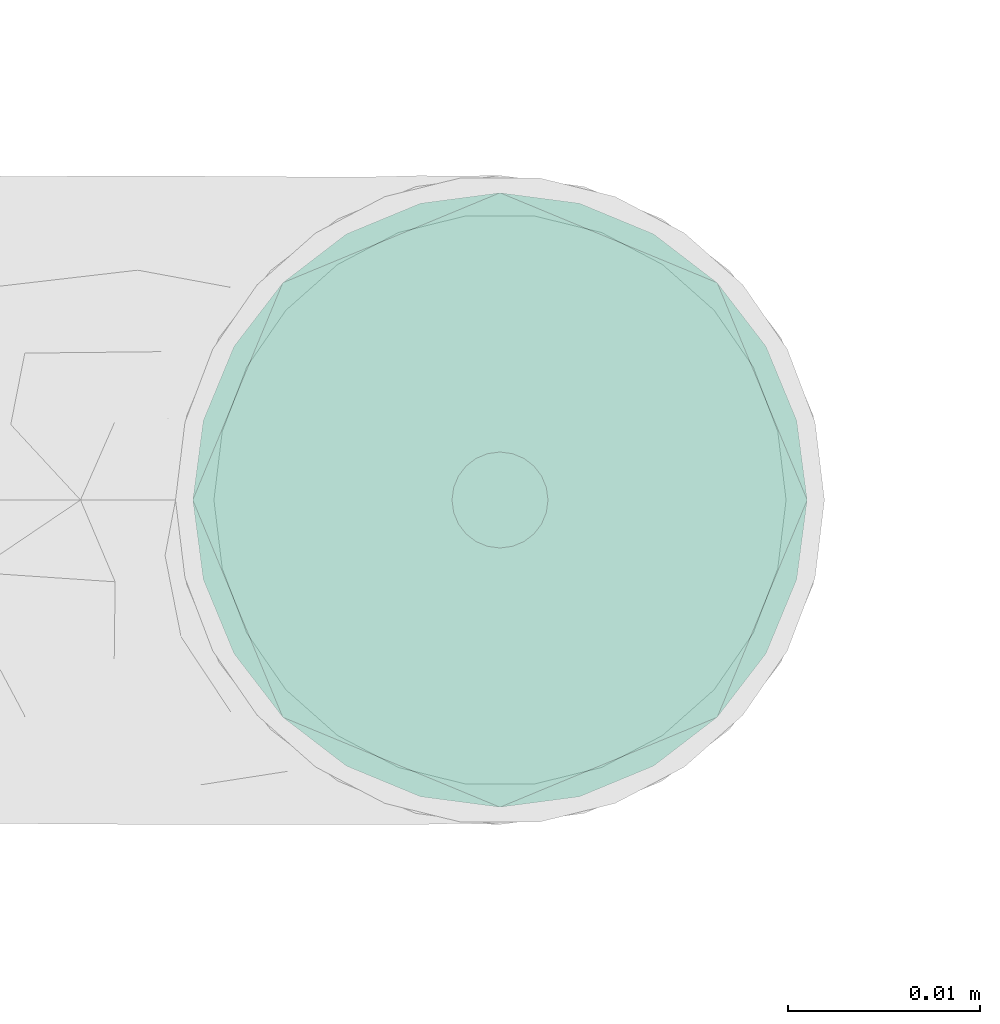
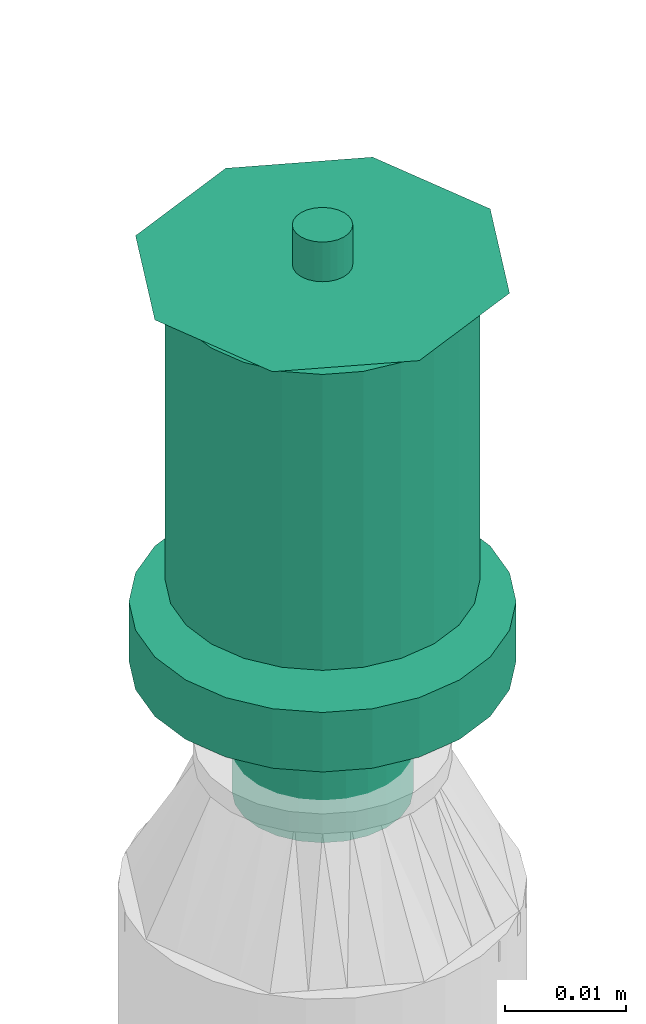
# One storey, part 122 of 157: 1 flow terminal.
"""IFC2X3 building model written with IfcOpenShell, lengths in millimetres."""

from ifc_helpers import new_model, entity, si_unit, converted_unit, derived_unit, direction, frame, origin_with_axes, place, context, subcontext, project, spatial, open_shell, surface_model, source, transform, mapped, type_object, element, save


model = new_model("IFC2X3")

# Units and contexts
model_context = context("Model", 3, precision=0.01, world=frame((0.0, 4.29681676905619e-09, 0.0)), true_north=direction((4.01073788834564e-13, 1.0)))
plan_context = context("Plan", 3, precision=0.01, world=frame((0.0, 4.29681676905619e-09, 0.0)), true_north=direction((4.01073788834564e-13, 1.0)))
body_context = subcontext(model_context, "Body", "Model", "MODEL_VIEW")
ifc_project = project(units=[converted_unit("PLANEANGLEUNIT", "DEGREE", entity("IfcPositiveLengthMeasure", 0.0174532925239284), si_unit("PLANEANGLEUNIT", "RADIAN"), dimensions=[0, 0, 0, 0, 0, 0, 0]), si_unit("AREAUNIT", "SQUARE_METRE"), si_unit("LENGTHUNIT", "METRE", prefix="MILLI"), si_unit("MASSUNIT", "GRAM", prefix="KILO"), si_unit("POWERUNIT", "WATT"), si_unit("PRESSUREUNIT", "PASCAL"), si_unit("FORCEUNIT", "NEWTON", prefix="KILO"), si_unit("ELECTRICCURRENTUNIT", "AMPERE"), si_unit("THERMODYNAMICTEMPERATUREUNIT", "DEGREE_CELSIUS"), si_unit("TIMEUNIT", "SECOND"), si_unit("VOLUMEUNIT", "CUBIC_METRE"), derived_unit("LINEARVELOCITYUNIT", [(si_unit("LENGTHUNIT", "METRE"), 1), (si_unit("TIMEUNIT", "SECOND"), -1)]), derived_unit("VOLUMETRICFLOWRATEUNIT", [(si_unit("VOLUMEUNIT", "CUBIC_METRE"), 1), (si_unit("TIMEUNIT", "SECOND"), -1)]), derived_unit("THERMALTRANSMITTANCEUNIT", [(si_unit("POWERUNIT", "WATT"), 1), (si_unit("THERMODYNAMICTEMPERATUREUNIT", "KELVIN"), -1), (si_unit("AREAUNIT", "SQUARE_METRE"), -1)])], contexts=[model_context, plan_context])

# Site, building, storey
site_placement = place(None, frame((0.0, -4.29681676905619e-09, 0.0), z_axis=(0.0, 0.0, 1.0), x_axis=(1.0, 0.0, 0.0)))
site = spatial("IfcSite", under=ifc_project, at=site_placement, CompositionType="ELEMENT")
building_placement = place(site_placement, frame((0.0, 4.29681676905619e-09, 0.0), z_axis=(0.0, 0.0, 1.0), x_axis=(1.0, 0.0, 0.0)))
building = spatial("IfcBuilding", under=site, at=building_placement, Name="mc-building", CompositionType="ELEMENT")
storey_placement = place(building_placement, frame((0.0, 0.0, 204000.0), z_axis=(0.0, 0.0, 1.0), x_axis=(1.0, 0.0, 0.0)))
storey = spatial("IfcBuildingStorey", under=building, at=storey_placement, Name="Nivå D", CompositionType="ELEMENT", Elevation=204000.0)

# Flow terminal
fire_suppression_terminal_type = type_object("IfcFireSuppressionTerminalType", Name="68DGR-STD-STÅENDE", PredefinedType="NOTDEFINED")
shared_shape = source(origin_with_axes(), body_context, "Body", "SurfaceModel", [
    surface_model("IfcShellBasedSurfaceModel", [(12.55704, 3.36465, 21.14766), (13.0, 0.0, 21.14766), (12.55704, -3.36465, 21.14766), (-12.55704, -3.36465, 21.14766), (-11.25833, -6.5, 21.14766), (-11.25833, -6.5, 51.0), (3.36465, -12.55704, 51.0), (3.36465, -12.55704, 21.14766), (6.5, -11.25833, 21.14766), (9.19239, -9.19239, 21.14766), (11.25833, -6.5, 21.14766), (9.19239, -9.19239, 51.0), (6.5, -11.25833, 51.0), (11.25833, -6.5, 51.0), (12.55704, -3.36465, 51.0), (13.0, 0.0, 51.0), (9.19239, 9.19239, 51.0), (11.25833, 6.5, 21.14766), (9.19239, 9.19239, 21.14766), (11.25833, 6.5, 51.0), (12.55704, 3.36465, 51.0), (6.5, 11.25833, 51.0), (6.5, 11.25833, 21.14766), (3.36465, 12.55704, 21.14766), (3.36465, 12.55704, 51.0), (-11.25833, 6.5, 51.0), (-11.25833, 6.5, 21.14766), (-12.55704, 3.36465, 21.14766), (0.0, -2.5, 51.0), (-2.5, 0.0, 51.0), (0.0, 2.5, 51.0), (2.5, 0.0, 51.0), (11.31371, 11.31371, 53.0), (-11.31371, 11.31371, 53.0), (-11.31371, -11.31371, 53.0), (11.31371, -11.31371, 53.0), (1.62635, 1.62635, 51.0), (2.16506, 1.25, 51.0), (1.99186, 1.15, 51.0), (-1.76777, 1.76777, 51.0), (-1.25, 2.16506, 51.0), (-1.62635, 1.62635, 51.0), (1.99186, -1.15, 51.0), (2.16506, -1.25, 51.0), (1.62635, -1.62635, 51.0), (-1.62635, -1.62635, 51.0), (-1.25, -2.16506, 51.0), (-1.76777, -1.76777, 51.0), (0.0, 7.3, 0.0), (1.94114, 7.24444, 0.0), (1.88938, 7.05126, 0.0), (5.16188, 5.16188, 0.0), (6.49519, 3.75, 0.0), (6.32199, 3.65, 0.0), (-5.3033, 5.3033, 0.0), (-3.75, 6.49519, 0.0), (-5.16188, 5.16188, 0.0), (6.32199, -3.65, 0.0), (6.49519, -3.75, 0.0), (5.16188, -5.16188, 0.0), (1.88938, -7.05126, 0.0), (1.94114, -7.24444, 0.0), (0.0, -7.3, 0.0), (-5.16188, -5.16188, 0.0), (-3.75, -6.49519, 0.0), (-5.3033, -5.3033, 0.0), (-3.36465, 12.55704, 51.0), (-6.5, 11.25833, 51.0), (0.0, 13.0, 51.0), (-9.19239, 9.19239, 51.0), (0.0, -13.0, 51.0), (-9.19239, -9.19239, 51.0), (-12.55704, -3.36465, 51.0), (-6.5, -11.25833, 51.0), (-3.36465, -12.55704, 51.0), (-7.5, 0.0, -0.1), (-7.24444, 1.94114, 0.1), (-7.24444, 1.94114, -0.1), (-6.49519, 3.75, 0.1), (-6.49519, 3.75, -0.1), (-3.75, 6.49519, -0.1), (-5.3033, 5.3033, -0.1), (-3.75, 6.49519, 0.1), (-5.3033, 5.3033, 0.1), (-1.94114, 7.24444, -0.1), (-1.94114, 7.24444, 0.1), (-7.5, 0.0, 0.1), (0.0, 7.5, 0.1), (0.0, 7.5, -0.1), (1.94114, 7.24444, 0.1), (1.94114, 7.24444, -0.1), (3.75, 6.49519, 0.1), (3.75, 6.49519, -0.1), (6.49519, 3.75, -0.1), (5.3033, 5.3033, -0.1), (6.49519, 3.75, 0.1), (5.3033, 5.3033, 0.1), (7.24444, 1.94114, -0.1), (7.24444, 1.94114, 0.1), (7.5, 0.0, 0.1), (7.5, 0.0, -0.1), (-7.24444, -1.94114, 0.1), (7.24444, -1.94114, 0.1), (5.3033, -5.3033, 0.1), (6.49519, -3.75, 0.1), (-6.49519, -3.75, 0.1), (0.0, -7.5, 0.1), (1.94114, -7.24444, 0.1), (3.75, -6.49519, 0.1), (-3.75, -6.49519, 0.1), (-1.94114, -7.24444, 0.1), (-5.3033, -5.3033, 0.1), (0.0, -7.5, -0.1), (-6.49519, -3.75, -0.1), (1.94114, -7.24444, -0.1), (3.75, -6.49519, -0.1), (5.3033, -5.3033, -0.1), (7.24444, -1.94114, -0.1), (6.49519, -3.75, -0.1), (-3.75, -6.49519, -0.1), (-5.3033, -5.3033, -0.1), (-1.94114, -7.24444, -0.1), (-7.24444, -1.94114, -0.1), (16.0, 0.0, 53.0), (0.0, -16.0, 53.0), (-16.0, 0.0, 53.0), (0.0, 16.0, 53.0), (0.64705, 2.41481, 57.0), (0.0, 2.5, 57.0), (1.25, 2.16506, 57.0), (-2.5, 0.0, 57.0), (1.76777, 1.76777, 57.0), (2.41481, 0.64705, 57.0), (2.16506, 1.25, 57.0), (-0.64705, 2.41481, 57.0), (-1.25, 2.16506, 57.0), (-1.76777, 1.76777, 57.0), (-2.16506, 1.25, 57.0), (-2.41481, 0.64705, 57.0), (2.5, 0.0, 57.0), (1.76777, -1.76777, 57.0), (2.16506, -1.25, 57.0), (2.41481, -0.64705, 57.0), (-2.41481, -0.64705, 57.0), (0.64705, -2.41481, 57.0), (1.25, -2.16506, 57.0), (0.0, -2.5, 57.0), (-1.76777, -1.76777, 57.0), (-2.16506, -1.25, 57.0), (-1.25, -2.16506, 57.0), (-0.64705, -2.41481, 57.0), (1.15, -1.99186, 51.0), (1.76777, -1.76777, 51.0), (1.25, -2.16506, 51.0), (0.59528, -2.22163, 51.0), (0.0, -2.3, 51.0), (0.64705, -2.41481, 51.0), (2.22163, -0.59528, 51.0), (2.3, 0.0, 51.0), (2.41481, -0.64705, 51.0), (-0.64705, -2.41481, 51.0), (-0.59528, -2.22163, 51.0), (-1.15, -1.99186, 51.0), (-2.16506, -1.25, 51.0), (-1.99186, -1.15, 51.0), (-2.22163, -0.59528, 51.0), (-2.3, 0.0, 51.0), (-2.41481, -0.64705, 51.0), (2.22163, 0.59528, 51.0), (2.41481, 0.64705, 51.0), (1.76777, 1.76777, 51.0), (1.15, 1.99186, 51.0), (1.25, 2.16506, 51.0), (0.59528, 2.22163, 51.0), (0.0, 2.3, 51.0), (0.64705, 2.41481, 51.0), (-1.99186, 1.15, 51.0), (-2.16506, 1.25, 51.0), (-2.41481, 0.64705, 51.0), (-2.22163, 0.59528, 51.0), (-0.64705, 2.41481, 51.0), (-0.59528, 2.22163, 51.0), (-1.15, 1.99186, 51.0), (-2.22163, 0.59528, 56.8), (-1.99186, 1.15, 56.8), (-1.15, 1.99186, 56.8), (-1.62635, 1.62635, 56.8), (-0.59528, 2.22163, 56.8), (-2.3, 0.0, 56.8), (0.0, 2.3, 56.8), (0.59528, 2.22163, 56.8), (1.15, 1.99186, 56.8), (1.99186, 1.15, 56.8), (1.62635, 1.62635, 56.8), (2.22163, 0.59528, 56.8), (2.3, 0.0, 56.8), (2.22163, -0.59528, 56.8), (1.99186, -1.15, 56.8), (1.62635, -1.62635, 56.8), (1.15, -1.99186, 56.8), (0.59528, -2.22163, 56.8), (0.0, -2.3, 56.8), (-1.99186, -1.15, 56.8), (-2.22163, -0.59528, 56.8), (-1.62635, -1.62635, 56.8), (-0.59528, -2.22163, 56.8), (-1.15, -1.99186, 56.8), (8.0, -13.85641, 13.0), (4.1411, -15.45481, 13.0), (0.0, -16.0, 13.0), (-4.1411, -15.45481, 13.0), (15.45481, -4.1411, 13.0), (13.85641, -8.0, 13.0), (11.31371, -11.31371, 13.0), (-16.0, 0.0, 13.0), (-8.0, -13.85641, 13.0), (-11.31371, -11.31371, 13.0), (-13.85641, -8.0, 13.0), (-15.45481, -4.1411, 13.0), (15.45481, 4.1411, 13.0), (4.1411, 15.45481, 13.0), (13.85641, 8.0, 13.0), (8.0, 13.85641, 13.0), (11.31371, 11.31371, 13.0), (-15.45481, 4.1411, 13.0), (-11.31371, 11.31371, 13.0), (-8.0, 13.85641, 13.0), (-13.85641, 8.0, 13.0), (-4.1411, 15.45481, 13.0), (0.0, 16.0, 13.0), (16.0, 0.0, 13.0), (7.05126, 1.88938, 12.8), (1.88938, 7.05126, 12.8), (3.65, 6.32199, 12.8), (6.32199, 3.65, 12.8), (5.16188, 5.16188, 12.8), (7.3, 0.0, 12.8), (0.0, 7.3, 12.8), (-3.65, 6.32199, 12.8), (-1.88938, 7.05126, 12.8), (-5.16188, 5.16188, 12.8), (-7.05126, 1.88938, 12.8), (-6.32199, 3.65, 12.8), (7.05126, -1.88938, 12.8), (0.0, -7.3, 12.8), (6.32199, -3.65, 12.8), (3.65, -6.32199, 12.8), (5.16188, -5.16188, 12.8), (1.88938, -7.05126, 12.8), (-7.3, 0.0, 12.8), (-6.32199, -3.65, 12.8), (-7.05126, -1.88938, 12.8), (-1.88938, -7.05126, 12.8), (-5.16188, -5.16188, 12.8), (-3.65, -6.32199, 12.8), (-7.05126, 1.88938, 0.0), (-7.3, 0.0, 0.0), (-6.32199, 3.65, 0.0), (-3.65, 6.32199, 0.0), (-1.88938, 7.05126, 0.0), (3.65, 6.32199, 0.0), (7.05126, 1.88938, 0.0), (7.3, 0.0, 0.0), (3.75, 6.49519, 13.0), (1.94114, 7.24444, 13.0), (7.5, 0.0, 13.0), (5.3033, 5.3033, 13.0), (7.24444, 1.94114, 13.0), (6.49519, 3.75, 13.0), (-5.3033, 5.3033, 13.0), (-7.24444, -1.94114, 13.0), (-1.94114, 7.24444, 13.0), (-3.75, 6.49519, 13.0), (0.0, 7.5, 13.0), (-6.49519, 3.75, 13.0), (-7.24444, 1.94114, 13.0), (7.24444, -1.94114, 13.0), (5.3033, -5.3033, 13.0), (6.49519, -3.75, 13.0), (-6.49519, -3.75, 13.0), (0.0, -7.5, 13.0), (1.94114, -7.24444, 13.0), (3.75, -6.49519, 13.0), (-7.5, 0.0, 13.0), (-3.75, -6.49519, 13.0), (-1.94114, -7.24444, 13.0), (-5.3033, -5.3033, 13.0), (3.65, -6.32199, 0.0), (5.3033, -5.3033, 0.0), (3.75, -6.49519, 0.0), (0.0, -7.5, 0.0), (7.05126, -1.88938, 0.0), (7.24444, -1.94114, 0.0), (7.5, 0.0, 0.0), (-1.94114, -7.24444, 0.0), (-1.88938, -7.05126, 0.0), (-3.65, -6.32199, 0.0), (-6.49519, -3.75, 0.0), (-6.32199, -3.65, 0.0), (-7.05126, -1.88938, 0.0), (-7.24444, -1.94114, 0.0), (-7.5, 0.0, 0.0), (7.24444, 1.94114, 0.0), (5.3033, 5.3033, 0.0), (3.75, 6.49519, 0.0), (0.0, 7.5, 0.0), (-6.49519, 3.75, 0.0), (-7.24444, 1.94114, 0.0), (-1.94114, 7.24444, 0.0), (-12.55704, 3.36465, 51.0), (-13.0, 0.0, 51.0), (0.0, -13.0, 21.14766), (-3.36465, -12.55704, 21.14766), (-6.5, -11.25833, 21.14766), (-9.19239, -9.19239, 21.14766), (-13.0, 0.0, 21.14766), (-9.19239, 9.19239, 21.14766), (-6.5, 11.25833, 21.14766), (-3.36465, 12.55704, 21.14766), (0.0, 13.0, 21.14766), (11.31371, 11.31371, 19.0), (8.0, 13.85641, 19.0), (4.1411, 15.45481, 19.0), (-8.0, 13.85641, 19.0), (16.0, 0.0, 19.0), (15.45481, 4.1411, 19.0), (13.85641, 8.0, 19.0), (-4.1411, 15.45481, 19.0), (0.0, 16.0, 19.0), (-11.31371, 11.31371, 19.0), (-13.85641, 8.0, 19.0), (-15.45481, 4.1411, 19.0), (15.45481, -4.1411, 19.0), (11.31371, -11.31371, 19.0), (13.85641, -8.0, 19.0), (-16.0, 0.0, 19.0), (0.0, -16.0, 19.0), (4.1411, -15.45481, 19.0), (8.0, -13.85641, 19.0), (-13.85641, -8.0, 19.0), (-11.31371, -11.31371, 19.0), (-15.45481, -4.1411, 19.0), (-8.0, -13.85641, 19.0), (-4.1411, -15.45481, 19.0)], [open_shell([[[0, 1, 2]], [[3, 4, 5]], [[6, 7, 8]], [[9, 10, 11]], [[9, 11, 12]], [[10, 13, 11]], [[14, 13, 2]], [[1, 15, 14]], [[16, 17, 18]], [[0, 19, 20]], [[20, 15, 1]], [[21, 16, 18]], [[22, 23, 24]], [[16, 19, 17]], [[25, 26, 27]], [[28, 29, 30]], [[30, 31, 28]], [[31, 30, 32]], [[33, 30, 29]], [[29, 28, 34]], [[35, 28, 31]], [[36, 37, 38]], [[39, 40, 41]], [[42, 43, 44]], [[45, 46, 47]], [[48, 49, 50]], [[51, 52, 53]], [[54, 55, 56]], [[57, 58, 59]], [[60, 61, 62]], [[63, 64, 65]], [[66, 67, 68]], [[67, 24, 68]], [[69, 25, 67]], [[15, 20, 14]], [[70, 6, 12]], [[5, 71, 72]], [[73, 74, 71]], [[72, 71, 74]], [[75, 76, 77]], [[77, 78, 79]], [[80, 81, 82]], [[83, 81, 79]], [[84, 80, 85]], [[76, 78, 77]], [[75, 86, 76]], [[80, 82, 85]], [[82, 81, 83]], [[79, 78, 83]], [[84, 85, 87]], [[87, 88, 84]], [[88, 89, 90]], [[90, 91, 92]], [[93, 94, 95]], [[96, 94, 92]], [[97, 93, 98]], [[91, 96, 92]], [[90, 89, 91]], [[97, 98, 99]], [[98, 93, 95]], [[94, 96, 95]], [[97, 99, 100]], [[87, 89, 88]], [[91, 89, 99]], [[96, 91, 98]], [[91, 99, 98]], [[95, 96, 98]], [[89, 83, 101]], [[85, 82, 87]], [[83, 87, 82]], [[78, 76, 83]], [[89, 87, 83]], [[76, 101, 83]], [[102, 99, 89]], [[103, 104, 102]], [[89, 105, 103]], [[103, 106, 107]], [[108, 103, 107]], [[106, 103, 105]], [[89, 101, 105]], [[101, 76, 86]], [[109, 110, 111]], [[105, 111, 110]], [[106, 105, 110]], [[103, 102, 89]], [[112, 113, 114]], [[115, 114, 116]], [[117, 118, 116]], [[113, 116, 114]], [[116, 113, 117]], [[119, 120, 121]], [[113, 121, 120]], [[121, 113, 112]], [[113, 122, 117]], [[75, 77, 122]], [[100, 117, 122]], [[100, 81, 97]], [[93, 97, 90]], [[90, 92, 94]], [[93, 90, 94]], [[90, 97, 81]], [[79, 81, 77]], [[77, 81, 122]], [[84, 88, 80]], [[81, 80, 88]], [[81, 88, 90]], [[100, 122, 81]], [[100, 102, 117]], [[117, 104, 118]], [[115, 116, 108]], [[103, 116, 118]], [[114, 115, 107]], [[102, 104, 117]], [[100, 99, 102]], [[115, 108, 107]], [[108, 116, 103]], [[118, 104, 103]], [[114, 107, 106]], [[106, 112, 114]], [[112, 110, 121]], [[121, 109, 119]], [[113, 120, 105]], [[111, 120, 119]], [[122, 113, 101]], [[109, 111, 119]], [[121, 110, 109]], [[122, 101, 86]], [[101, 113, 105]], [[120, 111, 105]], [[122, 86, 75]], [[106, 110, 112]], [[31, 123, 35]], [[35, 124, 28]], [[124, 34, 28]], [[29, 34, 125]], [[33, 32, 126]], [[33, 125, 124]], [[124, 32, 33]], [[124, 35, 123]], [[124, 125, 34]], [[123, 32, 124]], [[29, 125, 33]], [[33, 126, 30]], [[126, 32, 30]], [[31, 32, 123]], [[127, 128, 129]], [[129, 130, 131]], [[132, 131, 130]], [[133, 131, 132]], [[130, 129, 128]], [[134, 135, 128]], [[136, 128, 135]], [[137, 138, 136]], [[128, 136, 130]], [[138, 130, 136]], [[139, 132, 130]], [[140, 141, 142]], [[143, 140, 139]], [[144, 140, 143]], [[145, 140, 144]], [[146, 144, 147]], [[139, 130, 143]], [[143, 148, 144]], [[149, 150, 147]], [[144, 148, 147]], [[146, 147, 150]], [[140, 142, 139]], [[151, 152, 153]], [[154, 151, 153]], [[155, 154, 156]], [[153, 156, 154]], [[28, 155, 156]], [[44, 152, 151]], [[157, 158, 159]], [[31, 159, 158]], [[43, 157, 159]], [[152, 44, 43]], [[157, 43, 42]], [[160, 161, 28]], [[161, 155, 28]], [[162, 161, 160]], [[160, 46, 162]], [[162, 46, 45]], [[47, 163, 164]], [[165, 164, 163]], [[45, 47, 164]], [[166, 165, 167]], [[163, 167, 165]], [[29, 166, 167]], [[168, 169, 31]], [[38, 169, 168]], [[169, 38, 37]], [[170, 37, 36]], [[171, 172, 170]], [[173, 172, 171]], [[174, 175, 173]], [[172, 173, 175]], [[30, 175, 174]], [[170, 36, 171]], [[39, 176, 177]], [[41, 176, 39]], [[178, 177, 176]], [[178, 179, 29]], [[176, 179, 178]], [[179, 166, 29]], [[180, 30, 181]], [[182, 180, 181]], [[182, 41, 40]], [[180, 182, 40]], [[181, 30, 174]], [[31, 158, 168]], [[29, 138, 178]], [[178, 137, 177]], [[40, 39, 135]], [[136, 39, 177]], [[180, 40, 134]], [[138, 137, 178]], [[29, 130, 138]], [[40, 135, 134]], [[135, 39, 136]], [[177, 137, 136]], [[180, 134, 128]], [[128, 30, 180]], [[30, 127, 175]], [[175, 129, 172]], [[37, 170, 133]], [[131, 170, 172]], [[169, 37, 132]], [[129, 131, 172]], [[175, 127, 129]], [[169, 132, 139]], [[132, 37, 133]], [[170, 131, 133]], [[169, 139, 31]], [[128, 127, 30]], [[179, 183, 166]], [[176, 184, 179]], [[185, 41, 182]], [[176, 41, 186]], [[187, 182, 181]], [[179, 184, 183]], [[183, 188, 166]], [[187, 185, 182]], [[186, 41, 185]], [[186, 184, 176]], [[189, 187, 181]], [[181, 174, 189]], [[173, 190, 174]], [[171, 191, 173]], [[192, 36, 38]], [[171, 36, 193]], [[194, 38, 168]], [[171, 193, 191]], [[191, 190, 173]], [[195, 194, 168]], [[192, 38, 194]], [[192, 193, 36]], [[158, 195, 168]], [[174, 190, 189]], [[31, 142, 159]], [[159, 141, 43]], [[153, 152, 145]], [[140, 152, 43]], [[156, 153, 144]], [[142, 141, 159]], [[31, 139, 142]], [[153, 145, 144]], [[145, 152, 140]], [[43, 141, 140]], [[156, 144, 146]], [[146, 28, 156]], [[28, 150, 160]], [[160, 149, 46]], [[163, 47, 148]], [[147, 47, 46]], [[167, 163, 143]], [[149, 147, 46]], [[160, 150, 149]], [[167, 143, 130]], [[143, 163, 148]], [[47, 147, 148]], [[167, 130, 29]], [[146, 150, 28]], [[190, 191, 193]], [[190, 193, 195]], [[194, 195, 193]], [[194, 193, 192]], [[190, 195, 186]], [[189, 185, 187]], [[185, 189, 186]], [[186, 183, 184]], [[186, 189, 190]], [[186, 196, 183]], [[186, 195, 196]], [[196, 197, 198]], [[196, 198, 199]], [[199, 200, 201]], [[199, 201, 196]], [[196, 201, 202]], [[188, 202, 203]], [[183, 202, 188]], [[204, 205, 206]], [[205, 204, 202]], [[201, 205, 202]], [[202, 183, 196]], [[157, 196, 158]], [[42, 197, 157]], [[199, 44, 151]], [[42, 44, 198]], [[200, 151, 154]], [[157, 197, 196]], [[196, 195, 158]], [[200, 199, 151]], [[198, 44, 199]], [[198, 197, 42]], [[201, 200, 154]], [[154, 155, 201]], [[161, 205, 155]], [[162, 206, 161]], [[202, 45, 164]], [[162, 45, 204]], [[203, 164, 165]], [[162, 204, 206]], [[206, 205, 161]], [[188, 203, 165]], [[202, 164, 203]], [[202, 204, 45]], [[166, 188, 165]], [[155, 205, 201]], [[207, 208, 209]], [[207, 209, 210]], [[211, 212, 213]], [[213, 207, 214]], [[211, 213, 214]], [[215, 216, 210]], [[217, 210, 216]], [[217, 218, 210]], [[218, 207, 210]], [[218, 214, 207]], [[214, 219, 211]], [[220, 219, 214]], [[221, 219, 220]], [[220, 222, 223]], [[221, 220, 223]], [[214, 224, 220]], [[225, 226, 227]], [[224, 227, 226]], [[228, 229, 226]], [[220, 224, 226]], [[226, 229, 220]], [[219, 230, 211]], [[231, 232, 233]], [[234, 233, 235]], [[231, 236, 232]], [[231, 233, 234]], [[232, 236, 237]], [[237, 238, 239]], [[238, 237, 240]], [[240, 241, 242]], [[240, 237, 236]], [[236, 241, 240]], [[236, 243, 241]], [[244, 243, 245]], [[246, 245, 247]], [[246, 248, 244]], [[246, 244, 245]], [[243, 244, 249]], [[249, 250, 251]], [[250, 249, 252]], [[253, 252, 254]], [[252, 253, 250]], [[249, 244, 252]], [[243, 249, 241]], [[255, 241, 256]], [[257, 242, 255]], [[238, 56, 258]], [[257, 56, 240]], [[239, 258, 259]], [[255, 242, 241]], [[241, 249, 256]], [[239, 238, 258]], [[240, 56, 238]], [[240, 242, 257]], [[237, 239, 259]], [[259, 48, 237]], [[50, 232, 48]], [[260, 233, 50]], [[234, 51, 53]], [[260, 51, 235]], [[231, 53, 261]], [[260, 235, 233]], [[233, 232, 50]], [[236, 231, 261]], [[234, 53, 231]], [[234, 235, 51]], [[262, 236, 261]], [[48, 232, 237]], [[263, 264, 265]], [[266, 263, 267]], [[263, 265, 267]], [[268, 266, 267]], [[264, 269, 270]], [[271, 272, 273]], [[269, 273, 272]], [[274, 275, 269]], [[264, 273, 269]], [[275, 270, 269]], [[276, 265, 264]], [[277, 278, 276]], [[264, 279, 277]], [[277, 280, 281]], [[282, 277, 281]], [[280, 277, 279]], [[264, 270, 279]], [[270, 275, 283]], [[284, 285, 286]], [[279, 286, 285]], [[280, 279, 285]], [[277, 276, 264]], [[287, 288, 289]], [[60, 287, 289]], [[290, 62, 61]], [[289, 61, 60]], [[59, 288, 287]], [[291, 262, 292]], [[293, 292, 262]], [[58, 291, 292]], [[288, 59, 58]], [[291, 58, 57]], [[294, 295, 290]], [[296, 295, 294]], [[294, 64, 296]], [[64, 63, 296]], [[295, 62, 290]], [[65, 297, 298]], [[299, 298, 297]], [[63, 65, 298]], [[256, 299, 300]], [[297, 300, 299]], [[301, 256, 300]], [[261, 302, 293]], [[53, 302, 261]], [[302, 53, 52]], [[303, 52, 51]], [[260, 304, 303]], [[50, 304, 260]], [[304, 50, 49]], [[305, 49, 48]], [[303, 51, 260]], [[54, 257, 306]], [[56, 257, 54]], [[307, 306, 257]], [[307, 255, 301]], [[257, 255, 307]], [[255, 256, 301]], [[308, 305, 259]], [[258, 308, 259]], [[55, 258, 56]], [[308, 258, 55]], [[259, 305, 48]], [[293, 262, 261]], [[301, 275, 307]], [[307, 274, 306]], [[55, 54, 272]], [[269, 54, 306]], [[308, 55, 271]], [[275, 274, 307]], [[301, 283, 275]], [[55, 272, 271]], [[272, 54, 269]], [[306, 274, 269]], [[308, 271, 273]], [[273, 305, 308]], [[305, 264, 49]], [[49, 263, 304]], [[52, 303, 268]], [[266, 303, 304]], [[302, 52, 267]], [[263, 266, 304]], [[49, 264, 263]], [[302, 267, 265]], [[267, 52, 268]], [[303, 266, 268]], [[302, 265, 293]], [[273, 264, 305]], [[293, 276, 292]], [[292, 278, 58]], [[289, 288, 282]], [[277, 288, 58]], [[61, 289, 281]], [[276, 278, 292]], [[293, 265, 276]], [[289, 282, 281]], [[282, 288, 277]], [[58, 278, 277]], [[61, 281, 280]], [[280, 290, 61]], [[290, 285, 294]], [[294, 284, 64]], [[297, 65, 279]], [[286, 65, 64]], [[300, 297, 270]], [[284, 286, 64]], [[294, 285, 284]], [[300, 270, 283]], [[270, 297, 279]], [[65, 286, 279]], [[300, 283, 301]], [[280, 285, 290]], [[291, 243, 262]], [[57, 245, 291]], [[246, 59, 287]], [[57, 59, 247]], [[248, 287, 60]], [[291, 245, 243]], [[243, 236, 262]], [[248, 246, 287]], [[247, 59, 246]], [[247, 245, 57]], [[244, 248, 60]], [[60, 62, 244]], [[295, 252, 62]], [[296, 254, 295]], [[250, 63, 298]], [[296, 63, 253]], [[251, 298, 299]], [[296, 253, 254]], [[254, 252, 295]], [[249, 251, 299]], [[250, 298, 251]], [[250, 253, 63]], [[256, 249, 299]], [[62, 252, 244]], [[16, 21, 24]], [[20, 16, 24]], [[24, 67, 72]], [[19, 16, 20]], [[24, 72, 20]], [[25, 72, 67]], [[309, 310, 25]], [[11, 13, 14]], [[72, 11, 20]], [[74, 12, 11]], [[12, 74, 70]], [[72, 25, 310]], [[72, 74, 11]], [[11, 14, 20]], [[8, 7, 311]], [[8, 311, 312]], [[2, 10, 9]], [[3, 9, 8]], [[3, 26, 9]], [[313, 314, 312]], [[3, 312, 314]], [[4, 3, 314]], [[3, 8, 312]], [[315, 26, 3]], [[2, 9, 26]], [[0, 2, 26]], [[17, 0, 18]], [[23, 22, 18]], [[0, 23, 18]], [[23, 0, 26]], [[316, 317, 26]], [[26, 315, 27]], [[318, 319, 317]], [[23, 26, 317]], [[23, 317, 319]], [[316, 26, 25]], [[318, 317, 67]], [[69, 317, 316]], [[319, 318, 66]], [[310, 309, 315]], [[27, 315, 309]], [[25, 27, 309]], [[25, 69, 316]], [[317, 69, 67]], [[67, 66, 318]], [[66, 68, 319]], [[22, 21, 18]], [[0, 17, 19]], [[1, 0, 20]], [[68, 24, 23]], [[24, 21, 22]], [[319, 68, 23]], [[1, 14, 2]], [[2, 13, 10]], [[6, 311, 7]], [[6, 8, 12]], [[12, 8, 9]], [[6, 70, 311]], [[313, 312, 74]], [[313, 73, 314]], [[71, 4, 314]], [[315, 3, 72]], [[70, 74, 312]], [[74, 73, 313]], [[73, 71, 314]], [[71, 5, 4]], [[3, 5, 72]], [[72, 310, 315]], [[311, 70, 312]], [[320, 321, 322]], [[320, 322, 323]], [[320, 324, 325]], [[326, 320, 325]], [[324, 320, 323]], [[327, 323, 328]], [[323, 322, 328]], [[329, 330, 323]], [[331, 323, 330]], [[323, 331, 324]], [[331, 332, 324]], [[333, 334, 332]], [[335, 333, 331]], [[336, 337, 338]], [[335, 338, 333]], [[338, 335, 336]], [[339, 340, 341]], [[335, 341, 340]], [[342, 343, 340]], [[335, 340, 343]], [[343, 336, 335]], [[332, 331, 333]], [[214, 331, 224]], [[224, 330, 227]], [[226, 225, 323]], [[329, 225, 227]], [[228, 226, 327]], [[331, 330, 224]], [[214, 335, 331]], [[226, 323, 327]], [[323, 225, 329]], [[227, 330, 329]], [[228, 327, 328]], [[328, 229, 228]], [[229, 322, 220]], [[220, 321, 222]], [[221, 223, 326]], [[320, 223, 222]], [[219, 221, 325]], [[321, 320, 222]], [[220, 322, 321]], [[219, 325, 324]], [[325, 221, 326]], [[223, 320, 326]], [[219, 324, 230]], [[328, 322, 229]], [[230, 332, 211]], [[211, 334, 212]], [[207, 213, 338]], [[333, 213, 212]], [[208, 207, 337]], [[332, 334, 211]], [[230, 324, 332]], [[207, 338, 337]], [[338, 213, 333]], [[212, 334, 333]], [[208, 337, 336]], [[336, 209, 208]], [[209, 343, 210]], [[210, 342, 215]], [[217, 216, 339]], [[340, 216, 215]], [[218, 217, 341]], [[342, 340, 215]], [[210, 343, 342]], [[218, 341, 335]], [[341, 217, 339]], [[216, 340, 339]], [[218, 335, 214]], [[336, 343, 209]]])]),
])
flow_terminal_placement = place(storey_placement, frame((531464.1861, 414262.85739, 2630.84424000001), z_axis=(0.0, 0.0, 1.0), x_axis=(-1.0, 0.0, 0.0)))
element("IfcFlowTerminal", 1, at=flow_terminal_placement, inside=storey, type_object=fire_suppression_terminal_type, Name="68DGR-STD-STÅENDE", context=body_context, shape_type="MappedRepresentation", body=[
    mapped(shared_shape, transform((0.0, 0.0, 0.0), scale=1.0)),
])

save(model, "model.ifc")
